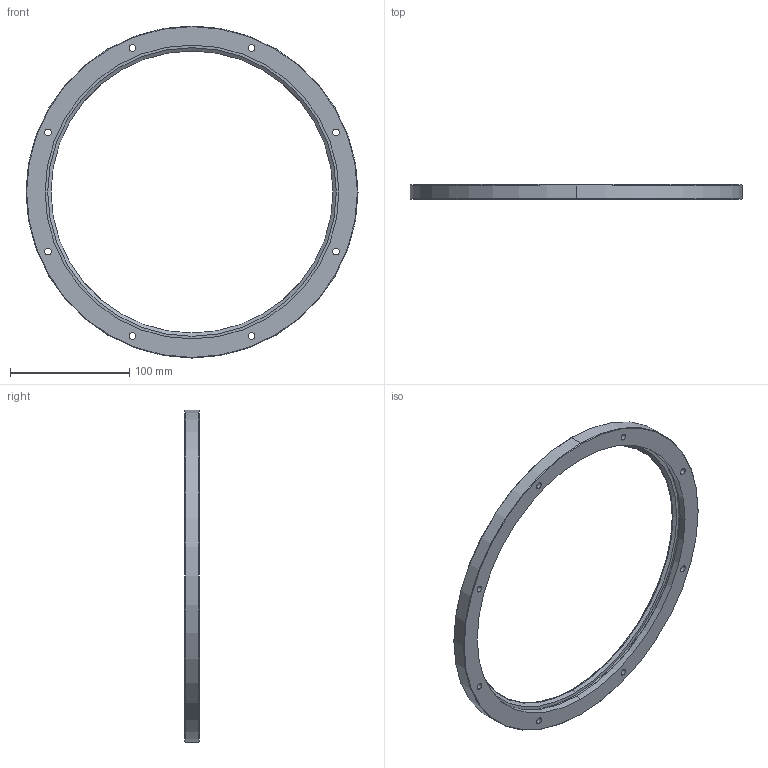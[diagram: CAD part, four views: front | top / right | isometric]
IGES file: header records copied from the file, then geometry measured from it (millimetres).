
Start section: 3D InterOp IGES (v. 2020 1.0.1), Spatial Corp. Copyright (c) 1999-2017.
Global section: file name: ris_278_r360.igs; native system: Spatial Corp.; preprocessor: 3D InterOp ACIS/IGES; author: TraceParts; organization: TraceParts S.A.; date: 20220624.060629; units: millimetre
Bounding box: 278 x 12.25 x 278 mm (x, y, z)
Surface area: 54129.8 mm2 (no closed solid volume)
Topology: 0 solids, 0 shells, 62 faces, 280 edges, 280 vertices
Faces by surface type: revolution 50, extrusion 12
